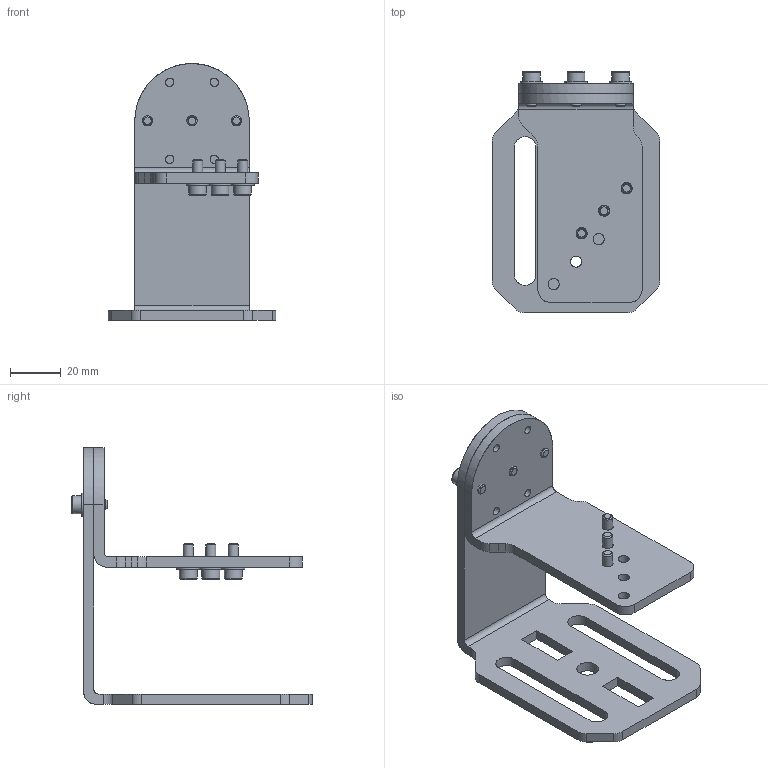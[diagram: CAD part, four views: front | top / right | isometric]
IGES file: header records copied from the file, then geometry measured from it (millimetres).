
Global section: file name: \\DL44141X2\c$\Users\acarrieri\Desktop\PDS\00-M320\M320-BKT\ASS-ADJUSTABLE-BRACKET.igs; native system: NX V12.0; preprocessor: SIEMENS PLM Software NX 12.0; date: 20201222.090240; units: millimetre
Bounding box: 66 x 94.8 x 101 mm (x, y, z)
Surface area: 34403.5 mm2 (no closed solid volume)
Topology: 0 solids, 0 shells, 208 faces, 1770 edges, 1702 vertices
Faces by surface type: bspline 208
